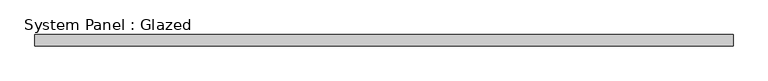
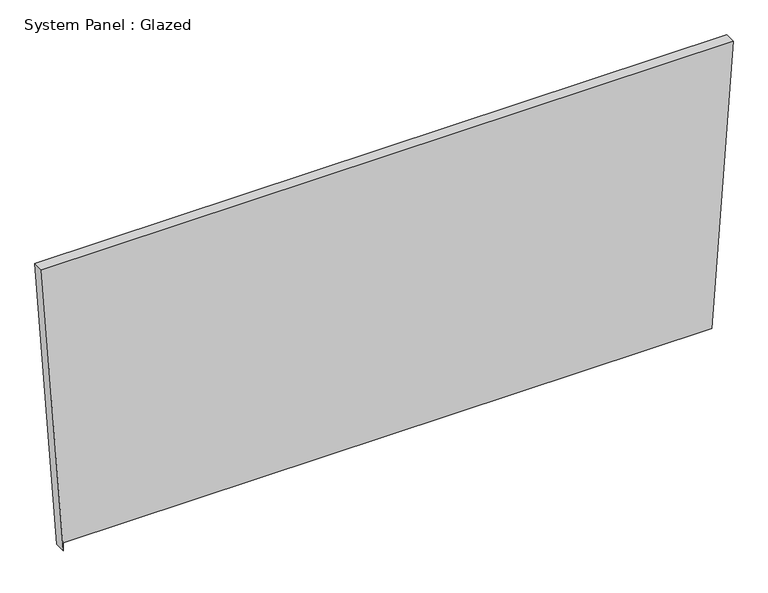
"""IFC4 building model written with IfcOpenShell, lengths in millimetres: plate geometry, System Panel : Glazed."""

from ifc_helpers import new_model, si_unit, frame, origin, place, context, project, spatial, polyline, outline, extrude, source, transform, mapped, element, save


def system_panel_glazed_d52020fd(model_context):
    return source(origin(), model_context, "Body", "SweptSolid", [
        extrude(outline(polyline([(0.0, -725.8488282), (19.05, -725.8488329), (19.0503596, 727.2191022), (682.5046004, 774.9416858), (682.5042168, -774.9416858), (0.0, -725.8488282)])), frame((0.0, 19.05, 0.0), z_axis=(0.0, 1.0, 0.0), x_axis=(0.0, 0.0, 1.0)), (0.0, 0.0, 1.0), 25.4),
    ])


if __name__ == "__main__":
    model = new_model("IFC4")
    model_context = context("Model", 3, world=origin())
    ifc_project = project(units=[si_unit("LENGTHUNIT", "METRE", prefix="MILLI")], contexts=[model_context])
    site = spatial("IfcSite", under=ifc_project)
    building = spatial("IfcBuilding", under=site)
    placement = place(None, origin())
    system_panel_glazed_shape = system_panel_glazed_d52020fd(model_context)
    element("IfcPlate", 1, ObjectType="System Panel : Glazed", at=placement, inside=building, context=model_context, shape_type="MappedRepresentation", body=[
        mapped(system_panel_glazed_shape, transform((0.0, 0.0, 0.0), x_axis=(1.0, 0.0, 0.0), y_axis=(0.0, 1.0, 0.0), z_axis=(0.0, 0.0, 1.0))),
    ])
    save(model, "model.ifc")
